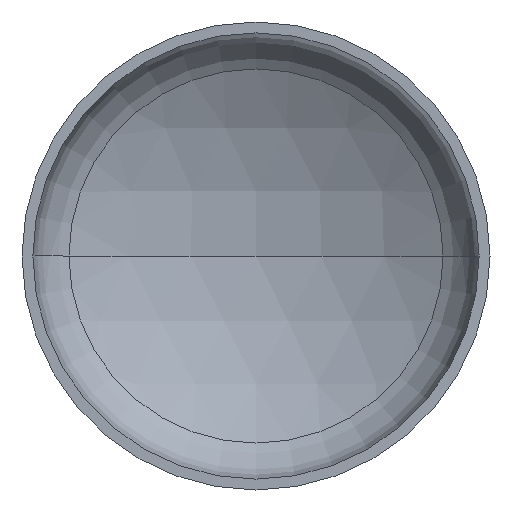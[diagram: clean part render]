
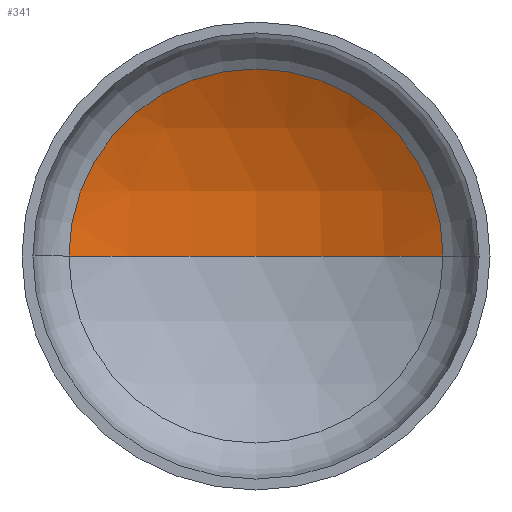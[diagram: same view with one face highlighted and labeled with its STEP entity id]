
A CAD part, front view. The second image highlights one B-rep face of the part: STEP entity #341.
In plain terms, the highlighted spherical face has radius 4000 mm.
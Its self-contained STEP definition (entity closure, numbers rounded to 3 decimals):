
#1 = AXIS2_PLACEMENT_3D ( 'NONE', #400, #231, #44 ) ;
#2 = VERTEX_POINT ( 'NONE', #170 ) ;
#6 = AXIS2_PLACEMENT_3D ( 'NONE', #141, #110, #71 ) ;
#15 = AXIS2_PLACEMENT_3D ( 'NONE', #144, #394, #314 ) ;
#17 = AXIS2_PLACEMENT_3D ( 'NONE', #113, #26, #246 ) ;
#26 = DIRECTION ( 'NONE',  ( 0., -1., 0. ) ) ;
#44 = DIRECTION ( 'NONE',  ( 1., 0., 0. ) ) ;
#71 = DIRECTION ( 'NONE',  ( -1., 0., 0. ) ) ;
#85 = ORIENTED_EDGE ( 'NONE', *, *, #334, .T. ) ;
#90 = VERTEX_POINT ( 'NONE', #274 ) ;
#110 = DIRECTION ( 'NONE',  ( 0., 0., -1. ) ) ;
#113 = CARTESIAN_POINT ( 'NONE',  ( 0., 741.977, 0. ) ) ;
#122 = CIRCLE ( 'NONE', #1, 4000. ) ;
#130 = SPHERICAL_SURFACE ( 'NONE', #6, 4000. ) ;
#141 = CARTESIAN_POINT ( 'NONE',  ( 0., -2722.839, 0. ) ) ;
#144 = CARTESIAN_POINT ( 'NONE',  ( 0., -2722.839, 0. ) ) ;
#154 = CARTESIAN_POINT ( 'NONE',  ( 0., 1277.161, 0. ) ) ;
#170 = CARTESIAN_POINT ( 'NONE',  ( 1998.762, 741.977, 0. ) ) ;
#209 = FACE_OUTER_BOUND ( 'NONE', #230, .T. ) ;
#218 = CIRCLE ( 'NONE', #17, 1998.762 ) ;
#226 = VERTEX_POINT ( 'NONE', #154 ) ;
#230 = EDGE_LOOP ( 'NONE', ( #310, #85, #330 ) ) ;
#231 = DIRECTION ( 'NONE',  ( 0., 0., 1. ) ) ;
#246 = DIRECTION ( 'NONE',  ( 1., 0., 0. ) ) ;
#274 = CARTESIAN_POINT ( 'NONE',  ( -1998.762, 741.977, 0. ) ) ;
#310 = ORIENTED_EDGE ( 'NONE', *, *, #387, .F. ) ;
#314 = DIRECTION ( 'NONE',  ( -1., 0., 0. ) ) ;
#330 = ORIENTED_EDGE ( 'NONE', *, *, #331, .T. ) ;
#331 = EDGE_CURVE ( 'NONE', #2, #90, #218, .T. ) ;
#334 = EDGE_CURVE ( 'NONE', #226, #2, #365, .T. ) ;
#341 = ADVANCED_FACE ( 'NONE', ( #209 ), #130, .F. ) ;
#365 = CIRCLE ( 'NONE', #15, 4000. ) ;
#387 = EDGE_CURVE ( 'NONE', #226, #90, #122, .T. ) ;
#394 = DIRECTION ( 'NONE',  ( 0., 0., -1. ) ) ;
#400 = CARTESIAN_POINT ( 'NONE',  ( 0., -2722.839, 0. ) ) ;
